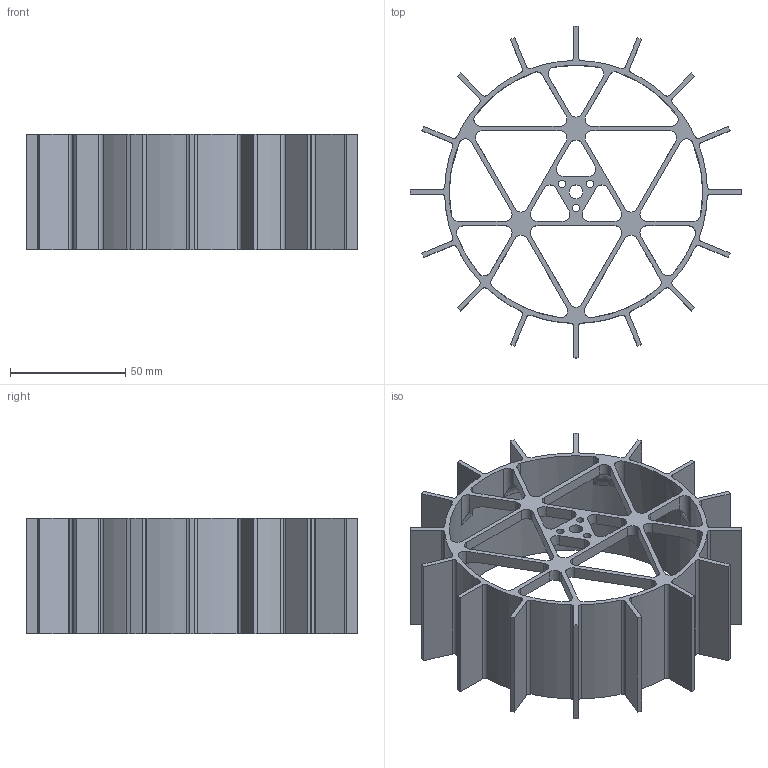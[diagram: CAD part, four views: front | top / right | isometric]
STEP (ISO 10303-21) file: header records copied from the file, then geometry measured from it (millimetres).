
FILE_DESCRIPTION (( 'STEP AP214' ), '1' );
FILE_NAME ('Pikemad_hambad3.STEP', '2025-05-19T12:10:39', ( '' ), ( '' ), 'SwSTEP 2.0', 'SolidWorks 2024', '' );
FILE_SCHEMA (( 'AUTOMOTIVE_DESIGN' ));
Length unit declared in the file: millimetre
Products named in the file (1): Pikemad_hambad3
Bounding box: 144 x 144 x 50 mm (x, y, z)
Volume: 68821.7 mm3; surface area: 69221 mm2
Topology: 1 solids, 1 shells, 238 faces, 729 edges, 479 vertices
Faces by surface type: cylinder 140, plane 71, torus 18, bspline 9
Entity records: 11217 total; most frequent: CARTESIAN_POINT 4505, ORIENTED_EDGE 1452, DIRECTION 1415, EDGE_CURVE 726, AXIS2_PLACEMENT_3D 528, VERTEX_POINT 479, VECTOR 359, LINE 359
